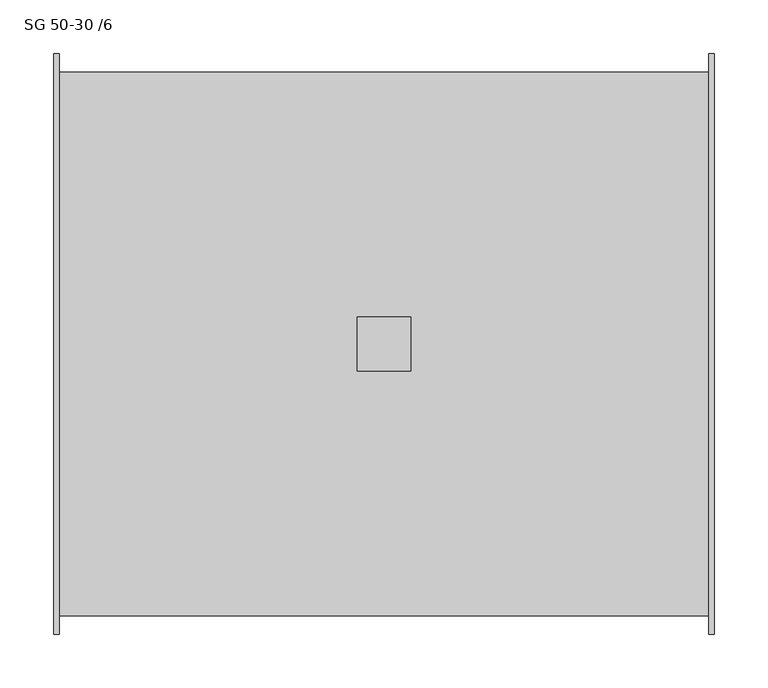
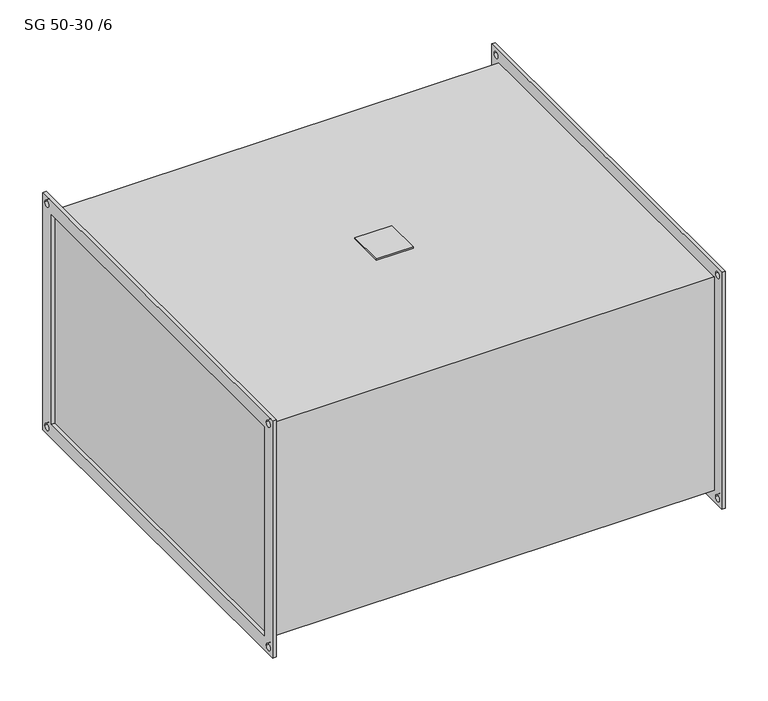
"""IFC4 building model written with IfcOpenShell, lengths in millimetres: damper geometry, KORF_Шумоглушитель_SG : SG 50-30 /6."""

from ifc_helpers import new_model, si_unit, point, frame, frame_2d, origin, place, context, project, spatial, polyline, circle_curve, trimmed, segment, composite_curve, outline, extrude, source, transform, mapped, element, save


def sg_50_30_6_3feef5d5(model_context):
    return source(origin(), model_context, "Body", "SweptSolid", [
        extrude(outline(polyline([(282.0, -25.0), (282.0, 25.0), (332.0, 25.0), (332.0, -25.0), (282.0, -25.0)])), frame((0.0, 0.0, 153.0), z_axis=(0.0, 0.0, 1.0), x_axis=(1.0, 0.0, 0.0)), (0.0, 0.0, 1.0), 2.0),
        extrude(outline(polyline([(-270.0, 170.0), (270.0, 170.0), (270.0, -170.0), (-270.0, -170.0), (-270.0, 170.0)]), holes=[polyline([(-250.0, 150.0), (-250.0, -150.0), (250.0, -150.0), (250.0, 150.0), (-250.0, 150.0)]), composite_curve([segment(trimmed(circle_curve(frame_2d((260.0, 160.0)), 4.5), [point((255.5, 160.0))], [point((264.5, 160.0))], True, "CARTESIAN"), True, "CONTINUOUS"), segment(trimmed(circle_curve(frame_2d((260.0, 160.0)), 4.5), [point((264.5, 160.0))], [point((255.5, 160.0))], True, "CARTESIAN"), True, "CONTINUOUS")], self_intersect=False), composite_curve([segment(trimmed(circle_curve(frame_2d((-260.0, 160.0)), 4.5), [point((-264.5, 160.0))], [point((-255.5, 160.0))], True, "CARTESIAN"), True, "CONTINUOUS"), segment(trimmed(circle_curve(frame_2d((-260.0, 160.0)), 4.5), [point((-255.5, 160.0))], [point((-264.5, 160.0))], True, "CARTESIAN"), True, "CONTINUOUS")], self_intersect=False), composite_curve([segment(trimmed(circle_curve(frame_2d((-260.0, -160.0)), 4.5), [point((-264.5, -160.0))], [point((-255.5, -160.0))], True, "CARTESIAN"), True, "CONTINUOUS"), segment(trimmed(circle_curve(frame_2d((-260.0, -160.0)), 4.5), [point((-255.5, -160.0))], [point((-264.5, -160.0))], True, "CARTESIAN"), True, "CONTINUOUS")], self_intersect=False), composite_curve([segment(trimmed(circle_curve(frame_2d((260.0, -160.0)), 4.5), [point((255.5, -160.0))], [point((264.5, -160.0))], True, "CARTESIAN"), True, "CONTINUOUS"), segment(trimmed(circle_curve(frame_2d((260.0, -160.0)), 4.5), [point((264.5, -160.0))], [point((255.5, -160.0))], True, "CARTESIAN"), True, "CONTINUOUS")], self_intersect=False)]), frame((609.0, 0.0, 0.0), z_axis=(1.0, 0.0, 0.0), x_axis=(0.0, 1.0, 0.0)), (0.0, 0.0, 1.0), 5.0),
        extrude(outline(polyline([(-270.0, 170.0), (270.0, 170.0), (270.0, -170.0), (-270.0, -170.0), (-270.0, 170.0)]), holes=[polyline([(-250.0, 150.0), (-250.0, -150.0), (250.0, -150.0), (250.0, 150.0), (-250.0, 150.0)]), composite_curve([segment(trimmed(circle_curve(frame_2d((260.0, 160.0)), 4.5), [point((255.5, 160.0))], [point((264.5, 160.0))], True, "CARTESIAN"), True, "CONTINUOUS"), segment(trimmed(circle_curve(frame_2d((260.0, 160.0)), 4.5), [point((264.5, 160.0))], [point((255.5, 160.0))], True, "CARTESIAN"), True, "CONTINUOUS")], self_intersect=False), composite_curve([segment(trimmed(circle_curve(frame_2d((-260.0, 160.0)), 4.5), [point((-264.5, 160.0))], [point((-255.5, 160.0))], True, "CARTESIAN"), True, "CONTINUOUS"), segment(trimmed(circle_curve(frame_2d((-260.0, 160.0)), 4.5), [point((-255.5, 160.0))], [point((-264.5, 160.0))], True, "CARTESIAN"), True, "CONTINUOUS")], self_intersect=False), composite_curve([segment(trimmed(circle_curve(frame_2d((-260.0, -160.0)), 4.5), [point((-264.5, -160.0))], [point((-255.5, -160.0))], True, "CARTESIAN"), True, "CONTINUOUS"), segment(trimmed(circle_curve(frame_2d((-260.0, -160.0)), 4.5), [point((-255.5, -160.0))], [point((-264.5, -160.0))], True, "CARTESIAN"), True, "CONTINUOUS")], self_intersect=False), composite_curve([segment(trimmed(circle_curve(frame_2d((260.0, -160.0)), 4.5), [point((255.5, -160.0))], [point((264.5, -160.0))], True, "CARTESIAN"), True, "CONTINUOUS"), segment(trimmed(circle_curve(frame_2d((260.0, -160.0)), 4.5), [point((264.5, -160.0))], [point((255.5, -160.0))], True, "CARTESIAN"), True, "CONTINUOUS")], self_intersect=False)]), frame((0.0, 0.0, 0.0), z_axis=(1.0, 0.0, 0.0), x_axis=(0.0, 1.0, 0.0)), (0.0, 0.0, 1.0), 5.0),
        extrude(outline(polyline([(609.0, 253.0), (609.0, -253.0), (5.0, -253.0), (5.0, 253.0), (609.0, 253.0)])), frame((0.0, 0.0, -153.0), z_axis=(0.0, 0.0, 1.0), x_axis=(1.0, 0.0, 0.0)), (0.0, 0.0, 1.0), 306.0),
    ])


if __name__ == "__main__":
    model = new_model("IFC4")
    model_context = context("Model", 3, world=origin())
    ifc_project = project(units=[si_unit("LENGTHUNIT", "METRE", prefix="MILLI")], contexts=[model_context])
    site = spatial("IfcSite", under=ifc_project)
    building = spatial("IfcBuilding", under=site)
    placement = place(None, origin())
    sg_50_30_6_shape = sg_50_30_6_3feef5d5(model_context)
    element("IfcDamper", 1, ObjectType="KORF_Шумоглушитель_SG : SG 50-30 /6", at=placement, inside=building, context=model_context, shape_type="MappedRepresentation", body=[
        mapped(sg_50_30_6_shape, transform((0.0, 0.0, 0.0), x_axis=(1.0, 0.0, 0.0), y_axis=(0.0, 1.0, 0.0), z_axis=(0.0, 0.0, 1.0))),
    ])
    save(model, "model.ifc")
